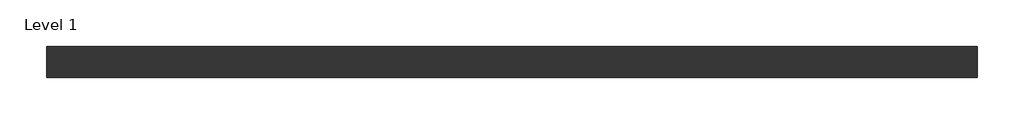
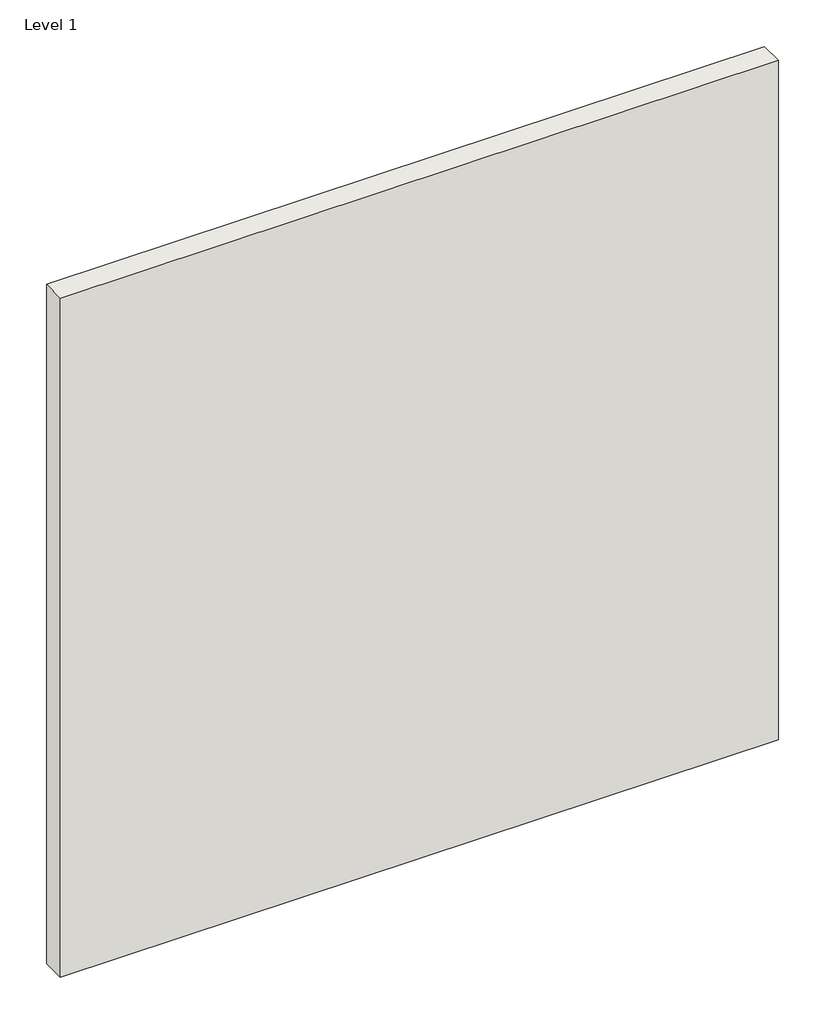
# One storey: 1 wall.
"""IFC4 building model written with IfcOpenShell, lengths in millimetres."""

from ifc_helpers import new_model, si_unit, origin, origin_with_axes, place, context, project, spatial, polyline, outline, extrude, element, save

model = new_model("IFC4")

# Units and contexts
model_context = context("Model", 3, world=origin())
ifc_project = project(units=[si_unit("LENGTHUNIT", "METRE", prefix="MILLI")], contexts=[model_context])

# Site, building, storey
site = spatial("IfcSite", under=ifc_project)
building = spatial("IfcBuilding", under=site)
storey = spatial("IfcBuildingStorey", under=building, Name="Level 1", Elevation=0.0)

# Wall
placement = place(None, origin())
element("IfcWall", 1, ObjectType="Generic - 8\"", at=placement, inside=storey, context=model_context, shape_type="SweptSolid", body=[
    extrude(outline(polyline([(1543.7470165, 2654.6056529), (7639.7470165, 2654.6056529), (7639.7470165, 2451.4056529), (1543.7470165, 2451.4056529), (1543.7470165, 2654.6056529)])), origin_with_axes(), (0.0, 0.0, 1.0), 6096.0),
])

save(model, "model.ifc")
